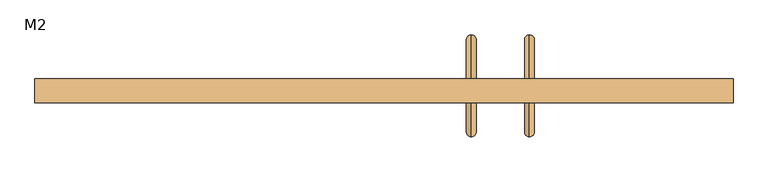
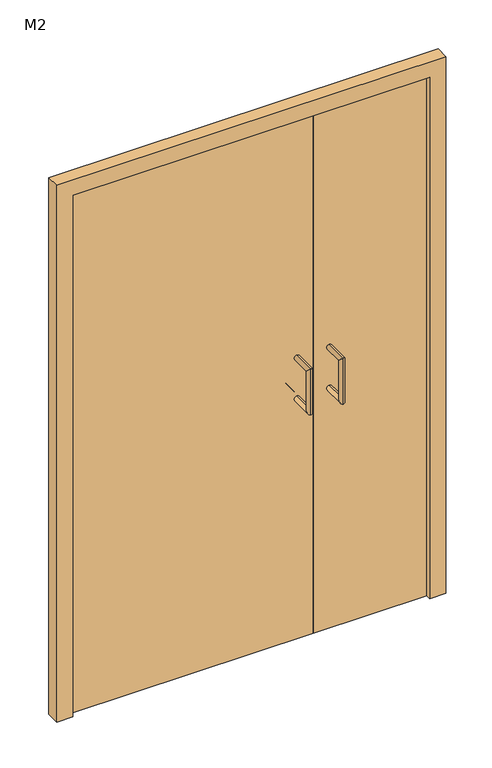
"""IFC4 building model written with IfcOpenShell, lengths in millimetres: door geometry, 子母门 : M2."""

from ifc_helpers import new_model, si_unit, frame, origin, origin_with_axes, place, context, project, spatial, polyline, circle_curve, ellipse_curve, outline, extrude, source, transform, mapped, element, save
from ifc_brep_helpers import plane_surface, cylinder_surface, advanced_brep


def m2_9d6c72a9(model_context):
    return source(origin(), model_context, "Body", "SolidModel", [
        extrude(outline(polyline([(660.0, -5.0), (240.0, -5.0), (240.0, 25.0), (660.0, 25.0), (660.0, -5.0)])), origin_with_axes(), (0.0, 0.0, 1.0), 2040.0),
        extrude(outline(polyline([(240.0, -5.0), (-660.0, -5.0), (-660.0, 25.0), (240.0, 25.0), (240.0, -5.0)])), origin_with_axes(), (0.0, 0.0, 1.0), 2040.0),
        extrude(outline(polyline([(2100.0, -720.0), (0.0, -720.0), (0.0, -660.0), (2040.0, -660.0), (2040.0, 660.0), (0.0, 660.0), (0.0, 720.0), (2100.0, 720.0), (2100.0, -720.0)])), frame((0.0, -25.0, 0.0), z_axis=(0.0, 1.0, 0.0), x_axis=(0.0, 0.0, 1.0)), (0.0, 0.0, 1.0), 50.0),
        advanced_brep(
        [(300.0, 25.0, 1090.0), (300.0, 25.0, 1110.0), (300.0, 95.0, 1090.0), (300.0, 115.0, 1110.0), (300.0, 95.0, 950.0), (300.0, 115.0, 930.0), (300.0, 25.0, 950.0), (300.0, 25.0, 930.0)],
        [
            (0, 1, circle_curve(frame((300.0, 25.0, 1100.0), z_axis=(0.0, -1.0, 0.0), x_axis=(0.0, 0.0, 1.0)), 10.0)),
            (1, 0, circle_curve(frame((300.0, 25.0, 1100.0), z_axis=(0.0, -1.0, 0.0), x_axis=(0.0, 0.0, 1.0)), 10.0)),
            (0, 2),
            (2, 3, ellipse_curve(frame((300.0, 105.0, 1100.0), z_axis=(0.0, -0.7071067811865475, 0.7071067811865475), x_axis=(0.0, -0.7071067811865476, -0.7071067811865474)), 14.1421356, 10.0)),
            (3, 1),
            (3, 2, ellipse_curve(frame((300.0, 105.0, 1100.0), z_axis=(0.0, -0.7071067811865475, 0.7071067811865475), x_axis=(0.0, -0.7071067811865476, -0.7071067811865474)), 14.1421356, 10.0)),
            (2, 4),
            (4, 5, ellipse_curve(frame((300.0, 105.0, 940.0), z_axis=(0.0, 0.7071067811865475, 0.7071067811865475), x_axis=(0.0, -0.7071067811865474, 0.7071067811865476)), 14.1421356, 10.0)),
            (5, 3),
            (5, 4, ellipse_curve(frame((300.0, 105.0, 940.0), z_axis=(0.0, 0.7071067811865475, 0.7071067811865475), x_axis=(0.0, -0.7071067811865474, 0.7071067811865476)), 14.1421356, 10.0)),
            (6, 7, circle_curve(frame((300.0, 25.0, 940.0), z_axis=(0.0, -1.0, 0.0), x_axis=(0.0, 0.0, -1.0)), 10.0)),
            (7, 6, circle_curve(frame((300.0, 25.0, 940.0), z_axis=(0.0, -1.0, 0.0), x_axis=(0.0, 0.0, -1.0)), 10.0)),
            (4, 6),
            (7, 5),
        ],
        [
            plane_surface(frame((0.0, 25.0, 1100.0), z_axis=(0.0, -1.0, 0.0), x_axis=(1.0, 0.0, 0.0))),
            cylinder_surface(frame((300.0, 25.0, 1100.0), z_axis=(0.0, -1.0, 0.0), x_axis=(0.0, 0.0, 1.0)), 10.0),
            cylinder_surface(frame((300.0, 105.0, 1100.0), z_axis=(0.0, 0.0, 1.0), x_axis=(0.0, 1.0, 0.0)), 10.0),
            plane_surface(frame((0.0, 25.0, 940.0), z_axis=(0.0, -1.0, 0.0), x_axis=(1.0, 0.0, 0.0))),
            cylinder_surface(frame((300.0, 105.0, 940.0), z_axis=(0.0, 1.0, 0.0), x_axis=(0.0, 0.0, -1.0)), 10.0),
        ],
        [
            (0, [[1, 2]]),
            (1, [[-1, 3, 4, 5]]),
            (1, [[-2, -5, 6, -3]]),
            (2, [[-4, 7, 8, 9]]),
            (2, [[-6, -9, 10, -7]]),
            (3, [[11, 12]]),
            (4, [[-8, 13, -12, 14]]),
            (4, [[-10, -14, -11, -13]]),
        ],
    ),
        advanced_brep(
        [(180.0, 25.0, 1090.0), (180.0, 25.0, 1110.0), (180.0, 25.0, 950.0), (180.0, 25.0, 930.0), (180.0, 95.0, 1090.0), (180.0, 115.0, 1110.0), (180.0, 95.0, 950.0), (180.0, 115.0, 930.0)],
        [
            (0, 1, circle_curve(frame((180.0, 25.0, 1100.0), z_axis=(0.0, -1.0, 0.0), x_axis=(0.0, 0.0, 1.0)), 10.0)),
            (1, 0, circle_curve(frame((180.0, 25.0, 1100.0), z_axis=(0.0, -1.0, 0.0), x_axis=(0.0, 0.0, 1.0)), 10.0)),
            (2, 3, circle_curve(frame((180.0, 25.0, 940.0), z_axis=(0.0, -1.0, 0.0), x_axis=(0.0, 0.0, -1.0)), 10.0)),
            (3, 2, circle_curve(frame((180.0, 25.0, 940.0), z_axis=(0.0, -1.0, 0.0), x_axis=(0.0, 0.0, -1.0)), 10.0)),
            (0, 4),
            (4, 5, ellipse_curve(frame((180.0, 105.0, 1100.0), z_axis=(0.0, -0.7071067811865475, 0.7071067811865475), x_axis=(0.0, -0.7071067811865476, -0.7071067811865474)), 14.1421356, 10.0)),
            (5, 1),
            (5, 4, ellipse_curve(frame((180.0, 105.0, 1100.0), z_axis=(0.0, -0.7071067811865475, 0.7071067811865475), x_axis=(0.0, -0.7071067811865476, -0.7071067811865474)), 14.1421356, 10.0)),
            (4, 6),
            (6, 7, ellipse_curve(frame((180.0, 105.0, 940.0), z_axis=(0.0, 0.7071067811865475, 0.7071067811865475), x_axis=(0.0, -0.7071067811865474, 0.7071067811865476)), 14.1421356, 10.0)),
            (7, 5),
            (7, 6, ellipse_curve(frame((180.0, 105.0, 940.0), z_axis=(0.0, 0.7071067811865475, 0.7071067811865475), x_axis=(0.0, -0.7071067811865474, 0.7071067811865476)), 14.1421356, 10.0)),
            (6, 2),
            (3, 7),
        ],
        [
            plane_surface(frame((0.0, 25.0, 1100.0), z_axis=(0.0, -1.0, 0.0), x_axis=(1.0, 0.0, 0.0))),
            plane_surface(frame((0.0, 25.0, 940.0), z_axis=(0.0, -1.0, 0.0), x_axis=(1.0, 0.0, 0.0))),
            cylinder_surface(frame((180.0, 25.0, 1100.0), z_axis=(0.0, -1.0, 0.0), x_axis=(0.0, 0.0, 1.0)), 10.0),
            cylinder_surface(frame((180.0, 105.0, 1100.0), z_axis=(0.0, 0.0, 1.0), x_axis=(0.0, 1.0, 0.0)), 10.0),
            cylinder_surface(frame((180.0, 105.0, 940.0), z_axis=(0.0, 1.0, 0.0), x_axis=(0.0, 0.0, -1.0)), 10.0),
        ],
        [
            (0, [[1, 2]]),
            (1, [[3, 4]]),
            (2, [[-1, 5, 6, 7]]),
            (2, [[-2, -7, 8, -5]]),
            (3, [[-6, 9, 10, 11]]),
            (3, [[-8, -11, 12, -9]]),
            (4, [[-10, 13, -4, 14]]),
            (4, [[-12, -14, -3, -13]]),
        ],
    ),
        advanced_brep(
        [(300.0, -5.0, 1110.0), (300.0, -5.0, 1090.0), (300.0, -95.0, 1110.0), (300.0, -75.0, 1090.0), (300.0, -95.0, 930.0), (300.0, -75.0, 950.0), (300.0, -5.0, 930.0), (300.0, -5.0, 950.0)],
        [
            (0, 1, circle_curve(frame((300.0, -5.0, 1100.0), z_axis=(0.0, 1.0, 0.0), x_axis=(0.0, 0.0, -1.0)), 10.0)),
            (1, 0, circle_curve(frame((300.0, -5.0, 1100.0), z_axis=(0.0, 1.0, 0.0), x_axis=(0.0, 0.0, -1.0)), 10.0)),
            (0, 2),
            (2, 3, ellipse_curve(frame((300.0, -85.0, 1100.0), z_axis=(0.0, 0.7071067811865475, 0.7071067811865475), x_axis=(0.0, 0.7071067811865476, -0.7071067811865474)), 14.1421356, 10.0)),
            (3, 1),
            (3, 2, ellipse_curve(frame((300.0, -85.0, 1100.0), z_axis=(0.0, 0.7071067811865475, 0.7071067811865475), x_axis=(0.0, 0.7071067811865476, -0.7071067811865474)), 14.1421356, 10.0)),
            (2, 4),
            (4, 5, ellipse_curve(frame((300.0, -85.0, 940.0), z_axis=(0.0, -0.7071067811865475, 0.7071067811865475), x_axis=(0.0, 0.7071067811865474, 0.7071067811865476)), 14.1421356, 10.0)),
            (5, 3),
            (5, 4, ellipse_curve(frame((300.0, -85.0, 940.0), z_axis=(0.0, -0.7071067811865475, 0.7071067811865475), x_axis=(0.0, 0.7071067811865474, 0.7071067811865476)), 14.1421356, 10.0)),
            (6, 7, circle_curve(frame((300.0, -5.0, 940.0), z_axis=(0.0, 1.0, 0.0), x_axis=(0.0, 0.0, 1.0)), 10.0)),
            (7, 6, circle_curve(frame((300.0, -5.0, 940.0), z_axis=(0.0, 1.0, 0.0), x_axis=(0.0, 0.0, 1.0)), 10.0)),
            (4, 6),
            (7, 5),
        ],
        [
            plane_surface(frame((0.0, -5.0, 1100.0), z_axis=(0.0, 1.0, 0.0), x_axis=(1.0, 0.0, 0.0))),
            cylinder_surface(frame((300.0, -5.0, 1100.0), z_axis=(0.0, 1.0, 0.0), x_axis=(0.0, 0.0, -1.0)), 10.0),
            cylinder_surface(frame((300.0, -85.0, 1100.0), z_axis=(0.0, 0.0, 1.0), x_axis=(0.0, 1.0, 0.0)), 10.0),
            plane_surface(frame((0.0, -5.0, 940.0), z_axis=(0.0, 1.0, 0.0), x_axis=(1.0, 0.0, 0.0))),
            cylinder_surface(frame((300.0, -85.0, 940.0), z_axis=(0.0, -1.0, 0.0), x_axis=(0.0, 0.0, 1.0)), 10.0),
        ],
        [
            (0, [[1, 2]]),
            (1, [[-1, 3, 4, 5]]),
            (1, [[-2, -5, 6, -3]]),
            (2, [[-4, 7, 8, 9]]),
            (2, [[-6, -9, 10, -7]]),
            (3, [[11, 12]]),
            (4, [[-8, 13, -12, 14]]),
            (4, [[-10, -14, -11, -13]]),
        ],
    ),
        advanced_brep(
        [(180.0, -5.0, 1110.0), (180.0, -5.0, 1090.0), (180.0, -5.0, 930.0), (180.0, -5.0, 950.0), (180.0, -95.0, 1110.0), (180.0, -75.0, 1090.0), (180.0, -95.0, 930.0), (180.0, -75.0, 950.0)],
        [
            (0, 1, circle_curve(frame((180.0, -5.0, 1100.0), z_axis=(0.0, 1.0, 0.0), x_axis=(0.0, 0.0, -1.0)), 10.0)),
            (1, 0, circle_curve(frame((180.0, -5.0, 1100.0), z_axis=(0.0, 1.0, 0.0), x_axis=(0.0, 0.0, -1.0)), 10.0)),
            (2, 3, circle_curve(frame((180.0, -5.0, 940.0), z_axis=(0.0, 1.0, 0.0), x_axis=(0.0, 0.0, 1.0)), 10.0)),
            (3, 2, circle_curve(frame((180.0, -5.0, 940.0), z_axis=(0.0, 1.0, 0.0), x_axis=(0.0, 0.0, 1.0)), 10.0)),
            (0, 4),
            (4, 5, ellipse_curve(frame((180.0, -85.0, 1100.0), z_axis=(0.0, 0.7071067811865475, 0.7071067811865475), x_axis=(0.0, 0.7071067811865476, -0.7071067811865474)), 14.1421356, 10.0)),
            (5, 1),
            (5, 4, ellipse_curve(frame((180.0, -85.0, 1100.0), z_axis=(0.0, 0.7071067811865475, 0.7071067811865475), x_axis=(0.0, 0.7071067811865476, -0.7071067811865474)), 14.1421356, 10.0)),
            (4, 6),
            (6, 7, ellipse_curve(frame((180.0, -85.0, 940.0), z_axis=(0.0, -0.7071067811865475, 0.7071067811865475), x_axis=(0.0, 0.7071067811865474, 0.7071067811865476)), 14.1421356, 10.0)),
            (7, 5),
            (7, 6, ellipse_curve(frame((180.0, -85.0, 940.0), z_axis=(0.0, -0.7071067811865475, 0.7071067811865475), x_axis=(0.0, 0.7071067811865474, 0.7071067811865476)), 14.1421356, 10.0)),
            (6, 2),
            (3, 7),
        ],
        [
            plane_surface(frame((0.0, -5.0, 1100.0), z_axis=(0.0, 1.0, 0.0), x_axis=(1.0, 0.0, 0.0))),
            plane_surface(frame((0.0, -5.0, 940.0), z_axis=(0.0, 1.0, 0.0), x_axis=(1.0, 0.0, 0.0))),
            cylinder_surface(frame((180.0, -5.0, 1100.0), z_axis=(0.0, 1.0, 0.0), x_axis=(0.0, 0.0, -1.0)), 10.0),
            cylinder_surface(frame((180.0, -85.0, 1100.0), z_axis=(0.0, 0.0, 1.0), x_axis=(0.0, 1.0, 0.0)), 10.0),
            cylinder_surface(frame((180.0, -85.0, 940.0), z_axis=(0.0, -1.0, 0.0), x_axis=(0.0, 0.0, 1.0)), 10.0),
        ],
        [
            (0, [[1, 2]]),
            (1, [[3, 4]]),
            (2, [[-1, 5, 6, 7]]),
            (2, [[-2, -7, 8, -5]]),
            (3, [[-6, 9, 10, 11]]),
            (3, [[-8, -11, 12, -9]]),
            (4, [[-10, 13, -4, 14]]),
            (4, [[-12, -14, -3, -13]]),
        ],
    ),
    ])


if __name__ == "__main__":
    model = new_model("IFC4")
    model_context = context("Model", 3, world=origin())
    ifc_project = project(units=[si_unit("LENGTHUNIT", "METRE", prefix="MILLI")], contexts=[model_context])
    site = spatial("IfcSite", under=ifc_project)
    building = spatial("IfcBuilding", under=site)
    placement = place(None, origin())
    m2_shape = m2_9d6c72a9(model_context)
    element("IfcDoor", 1, ObjectType="子母门 : M2", at=placement, inside=building, context=model_context, shape_type="MappedRepresentation", body=[
        mapped(m2_shape, transform((0.0, 0.0, 0.0), x_axis=(1.0, 0.0, 0.0), y_axis=(0.0, 1.0, 0.0), z_axis=(0.0, 0.0, 1.0))),
    ])
    save(model, "model.ifc")
